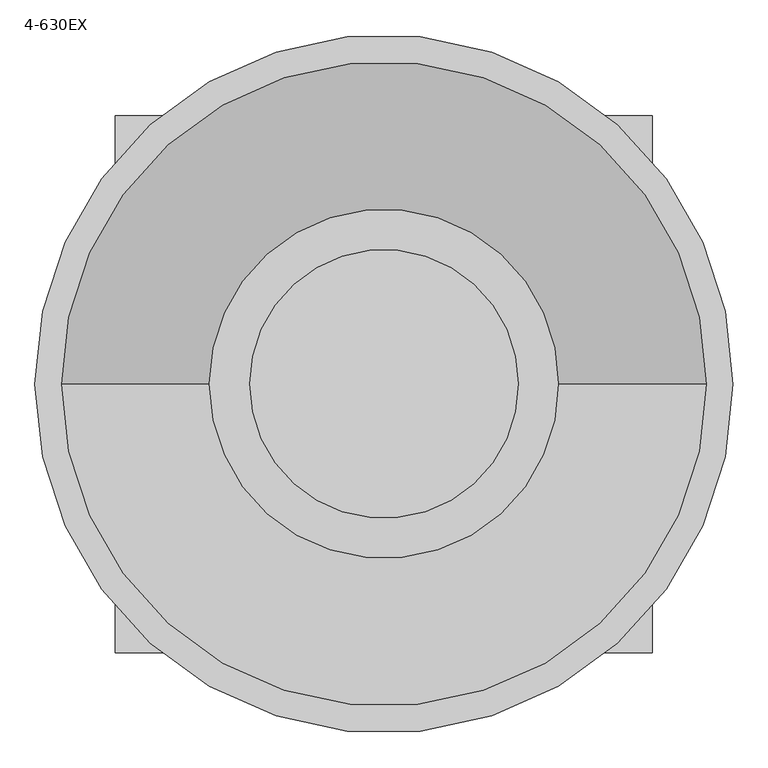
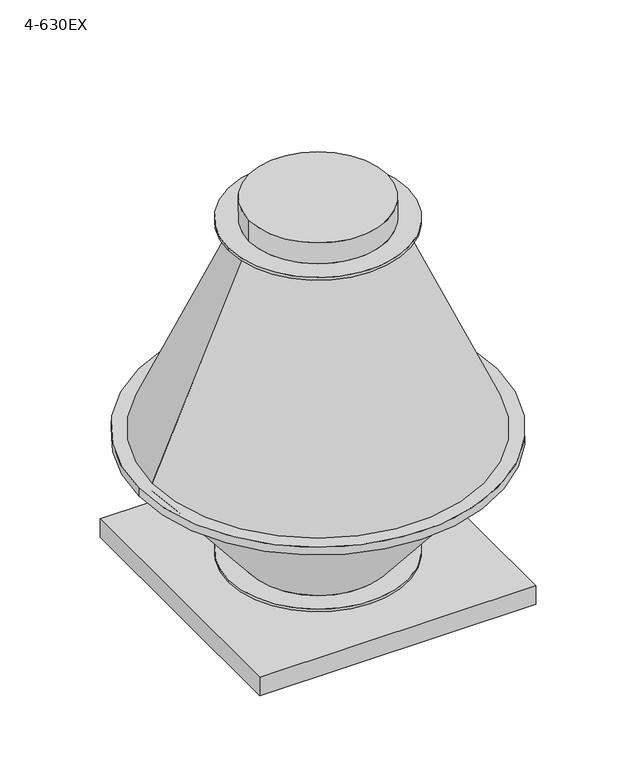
"""IFC4 building model written with IfcOpenShell, lengths in millimetres: unitary equipment geometry, VE-Wentylator-ParaForma-Harmann-VITT_EX-Wywiewny : 4-630EX."""

import ifcopenshell
import ifcopenshell.guid

model = None  # the IFC model being written
_history = None  # IfcOwnerHistory: only IFC2X3 demands one
_inside = {}  # id of a spatial element -> (the spatial element, [elements in it])
_under = {}  # id of a project, library or spatial element -> (it, [spatial elements below it])
_declared = {}  # id of a project -> (the project, [libraries it declares])
_typed = {}  # id of a type object -> (the type object, [elements of that type])
_made_of = {}  # id of a material, layer set ... -> (it, [elements and type objects made of it])


def new_model(schema):
    """Start an empty IFC model of exactly this schema.

    Asked for "IFC4X3", IfcOpenShell would pick the latest addendum, in which some entities
    have other attributes; the version numbers below select the first issue.
    IFC2X3 requires an IfcOwnerHistory on every rooted entity: one is made here for all.
    """
    global model, _history
    if schema == "IFC4X3":
        model = ifcopenshell.file(schema_version=(4, 3, 0, 0))
    else:
        model = ifcopenshell.file(schema=schema)
    _inside.clear()
    _under.clear()
    _declared.clear()
    _typed.clear()
    _made_of.clear()
    _history = None
    if model.schema == "IFC2X3":
        org = make("IfcOrganization", Name="unknown")
        user = make(
            "IfcPersonAndOrganization",
            ThePerson=make("IfcPerson", FamilyName="unknown"),
            TheOrganization=org,
        )
        app = make(
            "IfcApplication",
            ApplicationDeveloper=org,
            Version="unknown",
            ApplicationFullName="unknown",
            ApplicationIdentifier="unknown",
        )
        _history = make(
            "IfcOwnerHistory",
            OwningUser=user,
            OwningApplication=app,
            ChangeAction="ADDED",
            CreationDate=0,
        )
    return model


def make(cls, **values):
    """One entity of the class cls with the attributes given. An attribute that is None is left unset."""
    return model.create_entity(
        cls, **{name: value for name, value in values.items() if value is not None}
    )


def rooted(cls, **values):
    """An entity with a GlobalId (a new one), such as an element, a storey or a relation."""
    return make(cls, GlobalId=ifcopenshell.guid.new(), OwnerHistory=_history, **values)


def si_unit(unit_type, name, prefix=None):
    """IfcSIUnit, for example si_unit("LENGTHUNIT", "METRE", prefix="MILLI")."""
    return make("IfcSIUnit", UnitType=unit_type, Prefix=prefix, Name=name)


def assignment(units):
    """IfcUnitAssignment: the units of a project."""
    return None if units is None else make("IfcUnitAssignment", Units=units)


def point(xyz):
    """IfcCartesianPoint."""
    return None if xyz is None else make("IfcCartesianPoint", Coordinates=xyz)


def direction(xyz):
    """IfcDirection."""
    return None if xyz is None else make("IfcDirection", DirectionRatios=xyz)


def frame(location, z_axis=None, x_axis=None):
    """IfcAxis2Placement3D, a coordinate frame: its origin and axes. An axis left out is left unset."""
    return make(
        "IfcAxis2Placement3D",
        Location=point(location),
        Axis=direction(z_axis),
        RefDirection=direction(x_axis),
    )


def frame_2d(location, x_axis=None):
    """IfcAxis2Placement2D, a coordinate frame in the plane: its origin and x axis."""
    return make(
        "IfcAxis2Placement2D", Location=point(location), RefDirection=direction(x_axis)
    )


def origin():
    """The frame at (0, 0, 0) with its axes left unset."""
    return frame((0.0, 0.0, 0.0))


def origin_2d():
    """The frame at (0, 0) in the plane with its x axis left unset."""
    return frame_2d((0.0, 0.0))


def place(relative_to, where):
    """IfcLocalPlacement: puts the frame where relative to a parent placement (None: the world)."""
    return make(
        "IfcLocalPlacement", PlacementRelTo=relative_to, RelativePlacement=where
    )


def context(
    kind, dimensions, precision=None, world=None, true_north=None, identifier=None
):
    """IfcGeometricRepresentationContext, for example the 3D "Model" context."""
    return make(
        "IfcGeometricRepresentationContext",
        ContextIdentifier=identifier,
        ContextType=kind,
        CoordinateSpaceDimension=dimensions,
        Precision=precision,
        WorldCoordinateSystem=world,
        TrueNorth=true_north,
    )


def project(units=None, contexts=None):
    """IfcProject with its units and contexts."""
    return rooted(
        "IfcProject",
        Name="project",
        RepresentationContexts=contexts,
        UnitsInContext=assignment(units),
    )


def spatial(cls, under=None, at=None, **own):
    """A site, building, storey or space (cls), placed at a placement, below another one or the project."""
    s = rooted(cls, ObjectPlacement=at, **own)
    if under is not None:
        _under.setdefault(under.id(), (under, []))[1].append(s)
    return s


def polyline(points):
    """IfcPolyline through the points."""
    return make("IfcPolyline", Points=[point(p) for p in points])


def circle_curve(where, radius):
    """IfcCircle in the frame where."""
    return make("IfcCircle", Position=where, Radius=radius)


def trimmed(basis, trim1, trim2, sense, master):
    """IfcTrimmedCurve: the piece of a basis curve between two trims."""
    return make(
        "IfcTrimmedCurve",
        BasisCurve=basis,
        Trim1=trim1,
        Trim2=trim2,
        SenseAgreement=sense,
        MasterRepresentation=master,
    )


def segment(curve, same_sense, transition):
    """IfcCompositeCurveSegment."""
    return make(
        "IfcCompositeCurveSegment",
        Transition=transition,
        SameSense=same_sense,
        ParentCurve=curve,
    )


def composite_curve(segments, self_intersect=None):
    """IfcCompositeCurve: segments joined end to end."""
    return make("IfcCompositeCurve", Segments=segments, SelfIntersect=self_intersect)


def outline(outer, holes=None, kind="AREA"):
    """IfcArbitraryClosedProfileDef: a profile drawn as a closed curve; with holes, ...WithVoids."""
    if holes is None:
        return make("IfcArbitraryClosedProfileDef", ProfileType=kind, OuterCurve=outer)
    return make(
        "IfcArbitraryProfileDefWithVoids",
        ProfileType=kind,
        OuterCurve=outer,
        InnerCurves=holes,
    )


def extrude(swept, where, along, depth):
    """IfcExtrudedAreaSolid: the profile swept, set in the frame where, extruded along a direction by depth."""
    return make(
        "IfcExtrudedAreaSolid",
        SweptArea=swept,
        Position=where,
        ExtrudedDirection=direction(along),
        Depth=depth,
    )


def faces_of(points, faces, orient=None, outer=None):
    """IfcFace entities. A face is a list of loops; a loop is a list of indices into points, from 0.

    orient and outer hold one flag for each loop. By default every Orientation is true, the
    first loop of a face is its IfcFaceOuterBound and the others are IfcFaceBound.
    """
    made = []
    for i, loops in enumerate(faces):
        bounds = []
        for j, loop in enumerate(loops):
            is_outer = j == 0 if outer is None else outer[i][j]
            bounds.append(
                make(
                    "IfcFaceOuterBound" if is_outer else "IfcFaceBound",
                    Bound=make("IfcPolyLoop", Polygon=[points[k] for k in loop]),
                    Orientation=True if orient is None else orient[i][j],
                )
            )
        made.append(make("IfcFace", Bounds=bounds))
    return made


def faceted_brep(points, faces, orient=None, outer=None, voids=None):
    """IfcFacetedBrep: a solid bounded by flat faces; with voids (closed shells), ...WithVoids."""
    shared = [point(p) for p in points]
    hull = make("IfcClosedShell", CfsFaces=faces_of(shared, faces, orient, outer))
    if voids is None:
        return make("IfcFacetedBrep", Outer=hull)
    return make(
        "IfcFacetedBrepWithVoids",
        Outer=hull,
        Voids=[
            make(cls, CfsFaces=faces_of(shared, fs, o, b)) for cls, fs, o, b in voids
        ],
    )


def shape(context_of_items, identifier, shape_type, items):
    """IfcShapeRepresentation: the items that make up one representation, for example the "Body"."""
    return make(
        "IfcShapeRepresentation",
        ContextOfItems=context_of_items,
        RepresentationIdentifier=identifier,
        RepresentationType=shape_type,
        Items=items,
    )


def source(mapping_origin, context_of_items, identifier, shape_type, items):
    """IfcRepresentationMap: a shape defined once, which mapped items show again and again."""
    return make(
        "IfcRepresentationMap",
        MappingOrigin=mapping_origin,
        MappedRepresentation=shape(context_of_items, identifier, shape_type, items),
    )


def transform(
    local_origin,
    x_axis=None,
    y_axis=None,
    z_axis=None,
    scale=None,
    scale2=None,
    scale3=None,
    uniform=True,
):
    """IfcCartesianTransformationOperator3D, or its non-uniform kind. x_axis, y_axis, z_axis: its Axis1, 2, 3."""
    if uniform:
        return make(
            "IfcCartesianTransformationOperator3D",
            Axis1=direction(x_axis),
            Axis2=direction(y_axis),
            LocalOrigin=point(local_origin),
            Scale=scale,
            Axis3=direction(z_axis),
        )
    return make(
        "IfcCartesianTransformationOperator3DnonUniform",
        Axis1=direction(x_axis),
        Axis2=direction(y_axis),
        LocalOrigin=point(local_origin),
        Scale=scale,
        Axis3=direction(z_axis),
        Scale2=scale2,
        Scale3=scale3,
    )


def mapped(mapping_source, mapping_target):
    """IfcMappedItem: shows the shape of a source again, moved by a transform."""
    return make(
        "IfcMappedItem", MappingSource=mapping_source, MappingTarget=mapping_target
    )


def made_of(thing, what):
    """Note that an element or type object is made of a material, layer set ...; save() writes the relation."""
    if what is not None:
        _made_of.setdefault(what.id(), (what, []))[1].append(thing)
    return thing


def element(
    cls,
    number,
    at=None,
    inside=None,
    cuts=None,
    type_object=None,
    material=None,
    context=None,
    identifier="Body",
    shape_type=None,
    held_by="IfcProductDefinitionShape",
    body=None,
    shapes=None,
    **own,
):
    """One element of the class cls, such as IfcWall. Its Tag is "e" and its number.

    at: its placement. inside: the storey or other place that contains it. cuts: it is an
    opening in that element (IfcRelVoidsElement). A single representation is given by context,
    identifier, shape_type and body (its items); several are given by shapes. held_by: the class
    of the entity that holds the representations. save() writes the other relations.
    """
    e = rooted(cls, Tag="e%d" % number, ObjectPlacement=at, **own)
    if body is not None:
        shapes = [shape(context, identifier, shape_type, body)]
    if shapes is not None:
        e.Representation = make(held_by, Representations=shapes)
    if inside is not None:
        _inside.setdefault(inside.id(), (inside, []))[1].append(e)
    if cuts is not None:
        rooted(
            "IfcRelVoidsElement", RelatingBuildingElement=cuts, RelatedOpeningElement=e
        )
    if type_object is not None:
        _typed.setdefault(type_object.id(), (type_object, []))[1].append(e)
    return made_of(e, material)


def aggregate(whole, parts):
    """IfcRelAggregates: a whole, such as a stair, and the parts it consists of."""
    return rooted("IfcRelAggregates", RelatingObject=whole, RelatedObjects=parts)


def save(model, path):
    """Write the relations noted so far, then the file.

    IfcRelAggregates (storeys below a building ...), IfcRelContainedInSpatialStructure (elements
    in a storey), IfcRelDefinesByType, IfcRelAssociatesMaterial and IfcRelDeclares: one each for
    every whole, place, type object, material and project.
    """
    for whole, parts in _under.values():
        aggregate(whole, parts)
    for where, things in _inside.values():
        rooted(
            "IfcRelContainedInSpatialStructure",
            RelatedElements=things,
            RelatingStructure=where,
        )
    for kind, things in _typed.values():
        rooted("IfcRelDefinesByType", RelatedObjects=things, RelatingType=kind)
    for what, things in _made_of.values():
        rooted("IfcRelAssociatesMaterial", RelatedObjects=things, RelatingMaterial=what)
    for by, libraries in _declared.values():
        rooted("IfcRelDeclares", RelatingContext=by, RelatedDefinitions=libraries)
    model.write(path)


def plane_surface(at):
    """IfcPlane: the flat surface through the origin of the frame at, square to its z axis."""
    return make("IfcPlane", Position=at)


def cylinder_surface(at, radius):
    """IfcCylindricalSurface: all points at the distance radius from the z axis of the frame at."""
    return make("IfcCylindricalSurface", Position=at, Radius=radius)


def revolved_surface(curve, axis_point, axis_direction):
    """IfcSurfaceOfRevolution: the curve turned about the line through axis_point along axis_direction."""
    return make(
        "IfcSurfaceOfRevolution",
        SweptCurve=make("IfcArbitraryOpenProfileDef", ProfileType="CURVE", Curve=curve),
        AxisPosition=make("IfcAxis1Placement", Location=point(axis_point), Axis=direction(axis_direction)),
    )


def advanced_brep(points, edges, surfaces, faces):
    """IfcAdvancedBrep: a solid bounded by faces that lie on surfaces and meet in shared edges.

    An edge is (start, end): straight between two places in points (the first is 0);
    or (start, end, curve); or (start, end, curve, False) where it runs against its curve.
    A face is (place in surfaces, loops), or (place, loops, False) where it looks against
    its surface's normal. A loop lists edges by number (the first is 1), with a minus sign
    where the edge is run from its end to its start. The first loop is the outer one.
    """
    corners = [point(p) for p in points]
    vertices = [make("IfcVertexPoint", VertexGeometry=c) for c in corners]
    made = []
    for start, end, *more in edges:
        made.append(
            make(
                "IfcEdgeCurve",
                EdgeStart=vertices[start],
                EdgeEnd=vertices[end],
                EdgeGeometry=more[0] if more else make("IfcPolyline", Points=[corners[start], corners[end]]),
                SameSense=more[1] if len(more) > 1 else True,
            )
        )
    hull = []
    for where, loops, *sense in faces:
        bounds = []
        for j, loop in enumerate(loops):
            ring = [make("IfcOrientedEdge", EdgeElement=made[abs(k) - 1], Orientation=k > 0) for k in loop]
            bounds.append(
                make(
                    "IfcFaceOuterBound" if j == 0 else "IfcFaceBound",
                    Bound=make("IfcEdgeLoop", EdgeList=ring),
                    Orientation=True,
                )
            )
        hull.append(make("IfcAdvancedFace", Bounds=bounds, FaceSurface=surfaces[where], SameSense=sense[0] if sense else True))
    return make("IfcAdvancedBrep", Outer=make("IfcClosedShell", CfsFaces=hull))


def unitary_equipment_4_630ex_f51c27a0(model_context):
    return source(origin(), model_context, "Body", "SolidModel", [
        advanced_brep(
        [(-325.0, 0.0, 25.0), (325.0, 0.0, 25.0), (-325.0, 0.0, 35.0), (325.0, 0.0, 35.0), (250.0, 0.0, 35.0), (-250.0, 0.0, 35.0), (-600.0, 0.0, 470.0), (600.0, 0.0, 470.0)],
        [
            (0, 1, circle_curve(frame((0.0, 0.0, 25.0), z_axis=(0.0, 0.0, -1.0), x_axis=(1.0, 0.0, 0.0)), 325.0)),
            (1, 0, circle_curve(frame((0.0, 0.0, 25.0), z_axis=(0.0, 0.0, -1.0), x_axis=(1.0, 0.0, 0.0)), 325.0)),
            (2, 3, circle_curve(frame((0.0, 0.0, 35.0), z_axis=(0.0, 0.0, 1.0), x_axis=(1.0, 0.0, 0.0)), 325.0)),
            (3, 2, circle_curve(frame((0.0, 0.0, 35.0), z_axis=(0.0, 0.0, 1.0), x_axis=(1.0, 0.0, 0.0)), 325.0)),
            (4, 5, circle_curve(frame((0.0, 0.0, 35.0), z_axis=(0.0, 0.0, -1.0), x_axis=(-1.0, 0.0, 0.0)), 250.0)),
            (5, 4, circle_curve(frame((0.0, 0.0, 35.0), z_axis=(0.0, 0.0, -1.0), x_axis=(1.0, 0.0, 0.0)), 250.0)),
            (6, 7, circle_curve(frame((0.0, 0.0, 470.0), z_axis=(0.0, 0.0, 1.0), x_axis=(-1.0, 0.0, 0.0)), 600.0)),
            (7, 6, circle_curve(frame((0.0, 0.0, 470.0), z_axis=(0.0, 0.0, 1.0), x_axis=(1.0, 0.0, 0.0)), 600.0)),
            (6, 5),
            (4, 7),
            (0, 2),
            (3, 1),
        ],
        [
            plane_surface(frame((0.0, 0.0, 25.0), z_axis=(0.0, 0.0, -1.0), x_axis=(0.0, 1.0, 0.0))),
            plane_surface(frame((0.0, 0.0, 35.0), z_axis=(0.0, 0.0, 1.0), x_axis=(0.0, 1.0, 0.0))),
            plane_surface(frame((0.0, 0.0, 470.0), z_axis=(0.0, 0.0, 1.0), x_axis=(0.0, -1.0, 0.0))),
            revolved_surface(polyline([(249.999999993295, 0.0, 35.0), (600.0, 0.0, 470.0)]), (0.0, 0.0, -275.7142857), (0.0, 0.0, 1.0)),
            revolved_surface(polyline([(-249.999999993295, 0.0, 35.0), (-600.0, 0.0, 470.0)]), (0.0, 0.0, -275.7142857), (0.0, 0.0, 1.0)),
            cylinder_surface(frame((0.0, 0.0, 25.0), z_axis=(0.0, 0.0, -1.0), x_axis=(1.0, 0.0, 0.0)), 325.0),
        ],
        [
            (0, [[1, 2]]),
            (1, [[3, 4], [5, 6]]),
            (2, [[7, 8]]),
            (3, [[-7, 9, -5, 10]]),
            (4, [[-8, -10, -6, -9]]),
            (5, [[-1, 11, -4, 12]]),
            (5, [[-2, -12, -3, -11]]),
        ],
    ),
        advanced_brep(
        [(-600.0, 0.0, 500.0), (600.0, 0.0, 500.0), (250.0, 0.0, 1295.0), (-250.0, 0.0, 1295.0), (-325.0, 0.0, 1295.0), (325.0, 0.0, 1295.0), (-325.0, 0.0, 1305.0), (325.0, 0.0, 1305.0), (-250.0, 0.0, 1305.0), (250.0, 0.0, 1305.0), (-250.0, 0.0, 1385.0), (250.0, 0.0, 1385.0)],
        [
            (0, 1, circle_curve(frame((0.0, 0.0, 500.0), z_axis=(0.0, 0.0, -1.0), x_axis=(1.0, 0.0, 0.0)), 600.0)),
            (1, 0, circle_curve(frame((0.0, 0.0, 500.0), z_axis=(0.0, 0.0, -1.0), x_axis=(-1.0, 0.0, 0.0)), 600.0)),
            (1, 2),
            (2, 3, circle_curve(frame((0.0, 0.0, 1295.0), z_axis=(0.0, 0.0, -1.0), x_axis=(-1.0, 0.0, 0.0)), 250.0)),
            (3, 0),
            (3, 2, circle_curve(frame((0.0, 0.0, 1295.0), z_axis=(0.0, 0.0, -1.0), x_axis=(1.0, 0.0, 0.0)), 250.0)),
            (4, 5, circle_curve(frame((0.0, 0.0, 1295.0), z_axis=(0.0, 0.0, -1.0), x_axis=(1.0, 0.0, 0.0)), 325.0)),
            (5, 4, circle_curve(frame((0.0, 0.0, 1295.0), z_axis=(0.0, 0.0, -1.0), x_axis=(1.0, 0.0, 0.0)), 325.0)),
            (6, 7, circle_curve(frame((0.0, 0.0, 1305.0), z_axis=(0.0, 0.0, 1.0), x_axis=(1.0, 0.0, 0.0)), 325.0)),
            (7, 6, circle_curve(frame((0.0, 0.0, 1305.0), z_axis=(0.0, 0.0, 1.0), x_axis=(1.0, 0.0, 0.0)), 325.0)),
            (8, 9, circle_curve(frame((0.0, 0.0, 1305.0), z_axis=(0.0, 0.0, -1.0), x_axis=(1.0, 0.0, 0.0)), 250.0)),
            (9, 8, circle_curve(frame((0.0, 0.0, 1305.0), z_axis=(0.0, 0.0, -1.0), x_axis=(1.0, 0.0, 0.0)), 250.0)),
            (4, 6),
            (7, 5),
            (10, 11, circle_curve(frame((0.0, 0.0, 1385.0), z_axis=(0.0, 0.0, 1.0), x_axis=(1.0, 0.0, 0.0)), 250.0)),
            (11, 10, circle_curve(frame((0.0, 0.0, 1385.0), z_axis=(0.0, 0.0, 1.0), x_axis=(1.0, 0.0, 0.0)), 250.0)),
            (11, 9),
            (8, 10),
        ],
        [
            plane_surface(frame((0.0, 0.0, 500.0), z_axis=(0.0, 0.0, -1.0), x_axis=(0.0, -1.0, 0.0))),
            revolved_surface(polyline([(-250.0000000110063, 0.0, 1295.0), (-600.0, 0.0, 500.0)]), (0.0, 0.0, 1862.8571429), (0.0, 0.0, -1.0)),
            revolved_surface(polyline([(250.0000000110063, 0.0, 1295.0), (600.0, 0.0, 500.0)]), (0.0, 0.0, 1862.8571429), (0.0, 0.0, -1.0)),
            plane_surface(frame((0.0, 0.0, 1295.0), z_axis=(0.0, 0.0, -1.0), x_axis=(0.0, 1.0, 0.0))),
            plane_surface(frame((0.0, 0.0, 1305.0), z_axis=(0.0, 0.0, 1.0), x_axis=(0.0, 1.0, 0.0))),
            cylinder_surface(frame((0.0, 0.0, 1295.0), z_axis=(0.0, 0.0, -1.0), x_axis=(1.0, 0.0, 0.0)), 325.0),
            plane_surface(frame((0.0, 0.0, 1385.0), z_axis=(0.0, 0.0, 1.0), x_axis=(0.0, 1.0, 0.0))),
            cylinder_surface(frame((0.0, 0.0, 1305.0), z_axis=(0.0, 0.0, -1.0), x_axis=(1.0, 0.0, 0.0)), 250.0),
        ],
        [
            (0, [[1, 2]]),
            (1, [[-2, 3, 4, 5]]),
            (2, [[-1, -5, 6, -3]]),
            (3, [[7, 8], [-4, -6]]),
            (4, [[9, 10], [11, 12]]),
            (5, [[-7, 13, -10, 14]]),
            (5, [[-8, -14, -9, -13]]),
            (6, [[15, 16]]),
            (7, [[-16, 17, -11, 18]]),
            (7, [[-15, -18, -12, -17]]),
        ],
    ),
        faceted_brep([(475.0, -475.0, -45.0), (475.0, -475.0, 0.0), (475.0, 475.0, 0.0), (475.0, 475.0, -45.0), (500.0, -500.0, 25.0), (500.0, -500.0, -45.0), (500.0, 500.0, -45.0), (500.0, 500.0, 25.0), (-475.0, 475.0, 0.0), (-475.0, 475.0, -45.0), (-500.0, 500.0, -45.0), (-500.0, 500.0, 25.0), (-475.0, -475.0, 0.0), (-475.0, -475.0, -45.0), (-500.0, -500.0, -45.0), (-500.0, -500.0, 25.0)], [[[0, 1, 2, 3]], [[4, 5, 6, 7]], [[3, 2, 8, 9]], [[7, 6, 10, 11]], [[9, 8, 12, 13]], [[11, 10, 14, 15]], [[7, 11, 15, 4]], [[1, 12, 8, 2]], [[13, 12, 1, 0]], [[5, 14, 10, 6], [3, 9, 13, 0]], [[15, 14, 5, 4]]]),
        extrude(outline(composite_curve([segment(trimmed(circle_curve(origin_2d(), 650.0), [point((-650.0, 0.0))], [point((650.0, 0.0))], False, "CARTESIAN"), True, "CONTINUOUS"), segment(trimmed(circle_curve(origin_2d(), 650.0), [point((650.0, 0.0))], [point((-650.0, 0.0))], False, "CARTESIAN"), True, "CONTINUOUS")], self_intersect=False)), frame((0.0, 0.0, 470.0), z_axis=(0.0, 0.0, 1.0), x_axis=(1.0, 0.0, 0.0)), (0.0, 0.0, 1.0), 30.0),
    ])


if __name__ == "__main__":
    model = new_model("IFC4")
    model_context = context("Model", 3, world=origin())
    ifc_project = project(units=[si_unit("LENGTHUNIT", "METRE", prefix="MILLI")], contexts=[model_context])
    site = spatial("IfcSite", under=ifc_project)
    building = spatial("IfcBuilding", under=site)
    placement = place(None, origin())
    unitary_equipment_4_630ex_shape = unitary_equipment_4_630ex_f51c27a0(model_context)
    element("IfcUnitaryEquipment", 1, ObjectType="VE-Wentylator-ParaForma-Harmann-VITT_EX-Wywiewny : 4-630EX", at=placement, inside=building, context=model_context, shape_type="MappedRepresentation", body=[
        mapped(unitary_equipment_4_630ex_shape, transform((0.0, 0.0, 0.0), x_axis=(1.0, 0.0, 0.0), y_axis=(0.0, 1.0, 0.0), z_axis=(0.0, 0.0, 1.0))),
    ])
    save(model, "model.ifc")
